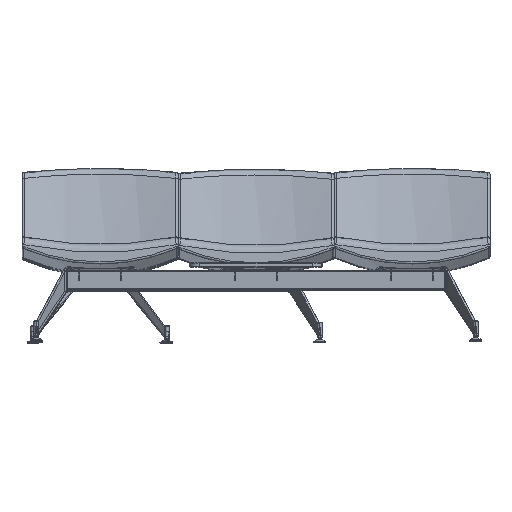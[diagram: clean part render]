
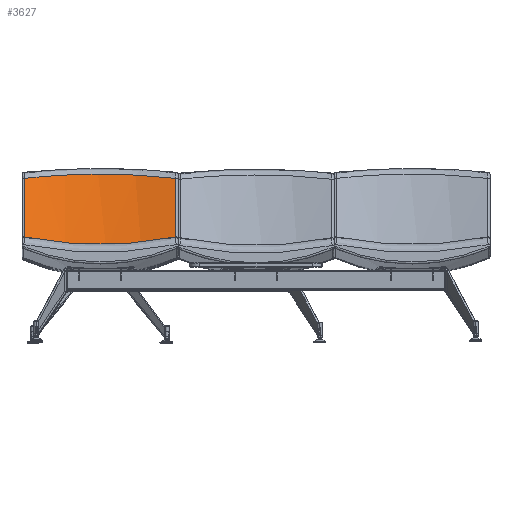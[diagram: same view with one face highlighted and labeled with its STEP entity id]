
A CAD part, top view. The second image highlights one B-rep face of the part: STEP entity #3627.
In plain terms, the highlighted cylindrical face has radius 1206.82 mm (diameter 2413.64 mm), a partial arc.
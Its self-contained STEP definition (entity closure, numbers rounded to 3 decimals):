
#938=B_SPLINE_CURVE_WITH_KNOTS('',3,(#50836,#50837,#50838,#50839,#50840,
#50841,#50842,#50843,#50844,#50845,#50846,#50847,#50848,#50849,#50850,#50851,
#50852,#50853,#50854,#50855,#50856,#50857,#50858,#50859,#50860,#50861,#50862,
#50863,#50864,#50865,#50866,#50867,#50868,#50869),.UNSPECIFIED.,.F.,.F.,
(4,2,2,2,1,2,2,2,2,2,2,2,2,2,1,2,2,4),(0.,0.125,0.188,
0.219,0.234,0.242,0.25,
0.375,0.437,0.469,0.5,
0.625,0.687,0.719,0.734,
0.742,0.75,1.),.UNSPECIFIED.);
#967=B_SPLINE_CURVE_WITH_KNOTS('',3,(#51614,#51615,#51616,#51617,#51618,
#51619,#51620,#51621,#51622,#51623,#51624,#51625,#51626,#51627,#51628,#51629,
#51630,#51631,#51632,#51633,#51634,#51635,#51636,#51637,#51638,#51639,#51640,
#51641,#51642,#51643,#51644,#51645,#51646,#51647,#51648,#51649,#51650,#51651,
#51652,#51653,#51654),.UNSPECIFIED.,.F.,.F.,(4,2,2,2,1,2,2,2,2,2,2,2,2,
2,2,2,2,1,1,2,2,4),(0.,0.125,0.188,0.219,
0.234,0.242,0.25,0.375,
0.438,0.469,0.484,0.5,
0.531,0.563,0.625,0.75,
0.758,0.766,0.781,0.812,
0.875,1.),.UNSPECIFIED.);
#1685=CYLINDRICAL_SURFACE('',#24001,1206.822);
#3627=ADVANCED_FACE('',(#5490),#1685,.F.);
#5490=FACE_OUTER_BOUND('',#6870,.T.);
#6870=EDGE_LOOP('',(#12848,#12849,#12850,#12851));
#12848=ORIENTED_EDGE('',*,*,#19082,.T.);
#12849=ORIENTED_EDGE('',*,*,#19125,.T.);
#12850=ORIENTED_EDGE('',*,*,#19126,.T.);
#12851=ORIENTED_EDGE('',*,*,#19127,.T.);
#16334=VERTEX_POINT('',#50782);
#16337=VERTEX_POINT('',#50835);
#16378=VERTEX_POINT('',#51613);
#16379=VERTEX_POINT('',#51655);
#19082=EDGE_CURVE('',#16334,#16337,#938,.T.);
#19125=EDGE_CURVE('',#16337,#16378,#21074,.T.);
#19126=EDGE_CURVE('',#16378,#16379,#967,.T.);
#19127=EDGE_CURVE('',#16379,#16334,#21075,.T.);
#21074=LINE('',#51612,#22302);
#21075=LINE('',#51656,#22303);
#22302=VECTOR('',#28646,1.);
#22303=VECTOR('',#28647,1.);
#24001=AXIS2_PLACEMENT_3D('',#51657,#28648,#28649);
#28646=DIRECTION('',(0.,0.951,-0.309));
#28647=DIRECTION('',(0.,-0.951,0.309));
#28648=DIRECTION('',(0.,0.951,-0.309));
#28649=DIRECTION('',(0.,-0.309,-0.951));
#50782=CARTESIAN_POINT('',(715.628,76.74,2841.092));
#50835=CARTESIAN_POINT('',(1345.453,76.74,2841.092));
#50836=CARTESIAN_POINT('',(715.628,76.74,2841.092));
#50837=CARTESIAN_POINT('',(741.923,71.003,2835.483));
#50838=CARTESIAN_POINT('',(768.138,66.012,2830.658));
#50839=CARTESIAN_POINT('',(807.23,59.621,2824.526));
#50840=CARTESIAN_POINT('',(820.222,57.674,2822.666));
#50841=CARTESIAN_POINT('',(839.64,55.023,2820.143));
#50842=CARTESIAN_POINT('',(846.102,54.185,2819.346));
#50843=CARTESIAN_POINT('',(855.774,52.994,2818.216));
#50844=CARTESIAN_POINT('',(860.606,52.416,2817.667));
#50845=CARTESIAN_POINT('',(865.43,51.863,2817.143));
#50846=CARTESIAN_POINT('',(868.645,51.5,2816.799));
#50847=CARTESIAN_POINT('',(870.208,51.326,2816.634));
#50848=CARTESIAN_POINT('',(898.528,48.221,2813.693));
#50849=CARTESIAN_POINT('',(925.198,46.039,2811.637));
#50850=CARTESIAN_POINT('',(965.134,43.868,2809.597));
#50851=CARTESIAN_POINT('',(978.434,43.329,2809.091));
#50852=CARTESIAN_POINT('',(998.357,42.794,2808.591));
#50853=CARTESIAN_POINT('',(1004.993,42.661,2808.467));
#50854=CARTESIAN_POINT('',(1018.254,42.487,2808.305));
#50855=CARTESIAN_POINT('',(1024.907,42.446,2808.267));
#50856=CARTESIAN_POINT('',(1057.834,42.468,2808.287));
#50857=CARTESIAN_POINT('',(1084.277,43.207,2808.976));
#50858=CARTESIAN_POINT('',(1124.011,45.408,2811.044));
#50859=CARTESIAN_POINT('',(1137.266,46.324,2811.906));
#50860=CARTESIAN_POINT('',(1157.155,47.971,2813.46));
#50861=CARTESIAN_POINT('',(1163.786,48.565,2814.022));
#50862=CARTESIAN_POINT('',(1173.732,49.526,2814.93));
#50863=CARTESIAN_POINT('',(1178.705,50.023,2815.401));
#50864=CARTESIAN_POINT('',(1183.677,50.546,2815.896));
#50865=CARTESIAN_POINT('',(1186.992,50.901,2816.232));
#50866=CARTESIAN_POINT('',(1188.694,51.086,2816.407));
#50867=CARTESIAN_POINT('',(1241.321,56.895,2821.909));
#50868=CARTESIAN_POINT('',(1293.225,65.345,2829.951));
#50869=CARTESIAN_POINT('',(1345.453,76.74,2841.092));
#51612=CARTESIAN_POINT('',(1345.453,407.045,2733.77));
#51613=CARTESIAN_POINT('',(1345.453,347.923,2752.979));
#51614=CARTESIAN_POINT('',(1345.453,347.923,2752.979));
#51615=CARTESIAN_POINT('',(1319.689,350.791,2744.725));
#51616=CARTESIAN_POINT('',(1293.841,353.31,2737.525));
#51617=CARTESIAN_POINT('',(1255.038,356.561,2728.281));
#51618=CARTESIAN_POINT('',(1242.098,357.557,2725.46));
#51619=CARTESIAN_POINT('',(1222.693,358.917,2721.613));
#51620=CARTESIAN_POINT('',(1216.225,359.348,2720.395));
#51621=CARTESIAN_POINT('',(1206.525,359.961,2718.664));
#51622=CARTESIAN_POINT('',(1201.676,360.259,2717.823));
#51623=CARTESIAN_POINT('',(1196.828,360.545,2717.018));
#51624=CARTESIAN_POINT('',(1193.596,360.733,2716.489));
#51625=CARTESIAN_POINT('',(1192.02,360.823,2716.234));
#51626=CARTESIAN_POINT('',(1163.873,362.409,2711.765));
#51627=CARTESIAN_POINT('',(1137.313,363.531,2708.611));
#51628=CARTESIAN_POINT('',(1097.46,364.656,2705.454));
#51629=CARTESIAN_POINT('',(1084.174,364.939,2704.664));
#51630=CARTESIAN_POINT('',(1064.252,365.223,2703.871));
#51631=CARTESIAN_POINT('',(1057.613,365.294,2703.672));
#51632=CARTESIAN_POINT('',(1047.657,365.366,2703.472));
#51633=CARTESIAN_POINT('',(1044.339,365.384,2703.421));
#51634=CARTESIAN_POINT('',(1037.704,365.409,2703.352));
#51635=CARTESIAN_POINT('',(1034.424,365.415,2703.335));
#51636=CARTESIAN_POINT('',(1024.368,365.417,2703.329));
#51637=CARTESIAN_POINT('',(1017.738,365.395,2703.392));
#51638=CARTESIAN_POINT('',(1004.402,365.303,2703.648));
#51639=CARTESIAN_POINT('',(997.731,365.233,2703.842));
#51640=CARTESIAN_POINT('',(977.715,364.954,2704.621));
#51641=CARTESIAN_POINT('',(964.366,364.674,2705.405));
#51642=CARTESIAN_POINT('',(924.325,363.553,2708.549));
#51643=CARTESIAN_POINT('',(897.639,362.43,2711.705));
#51644=CARTESIAN_POINT('',(869.359,360.84,2716.187));
#51645=CARTESIAN_POINT('',(867.778,360.749,2716.441));
#51646=CARTESIAN_POINT('',(864.54,360.562,2716.97));
#51647=CARTESIAN_POINT('',(859.682,360.276,2717.776));
#51648=CARTESIAN_POINT('',(848.346,359.58,2719.74));
#51649=CARTESIAN_POINT('',(838.625,358.933,2721.568));
#51650=CARTESIAN_POINT('',(819.182,357.572,2725.417));
#51651=CARTESIAN_POINT('',(806.218,356.575,2728.242));
#51652=CARTESIAN_POINT('',(767.34,353.32,2737.497));
#51653=CARTESIAN_POINT('',(741.442,350.796,2744.709));
#51654=CARTESIAN_POINT('',(715.628,347.923,2752.979));
#51655=CARTESIAN_POINT('',(715.628,347.923,2752.979));
#51656=CARTESIAN_POINT('',(715.628,407.045,2733.77));
#51657=CARTESIAN_POINT('',(1030.541,767.054,3841.76));
